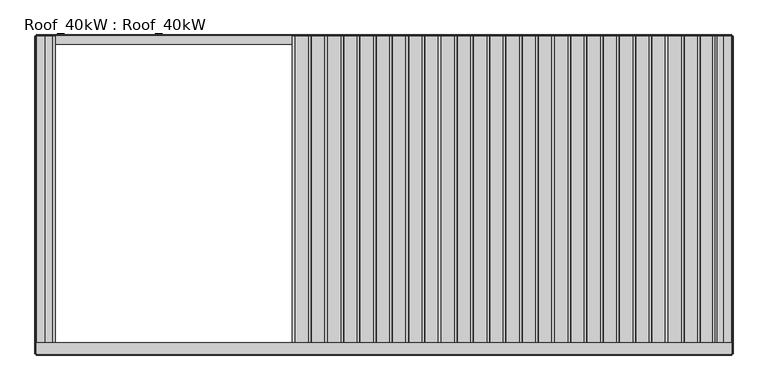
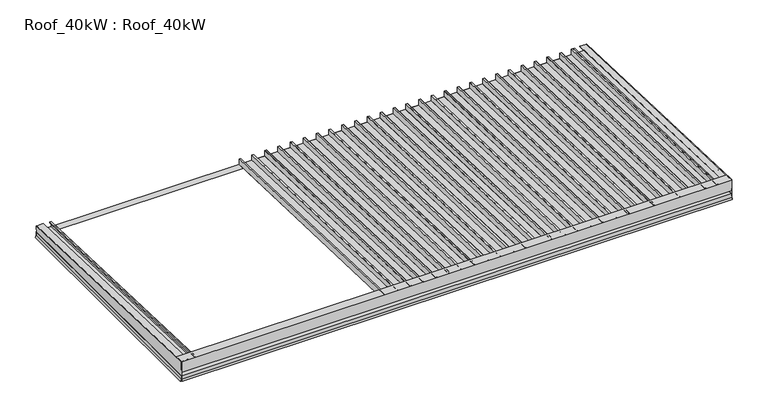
"""IFC4 building model written with IfcOpenShell, lengths in millimetres: beam geometry, Roof_40kW : Roof_40kW."""

from ifc_helpers import new_model, si_unit, frame, origin, place, context, project, spatial, polyline, outline, extrude, faceted_brep, source, transform, mapped, element, save


def roof_40kw_roof_40kw_a1198938(model_context):
    return source(origin(), model_context, "Body", "SolidModel", [
        extrude(outline(polyline([(3460.6079515, 3284.625316), (-23.1337581, 3282.8043375), (-14.9278607, 3517.7904945), (3464.5525967, 3397.5851728), (3460.6079515, 3284.625316)])), frame((3808.0, 0.0, 0.0), z_axis=(1.0, 0.0, 0.0), x_axis=(0.0, 1.0, 0.0)), (0.0, 0.0, 1.0), 2.0),
        faceted_brep([(-3604.7150264, -12.227048, 3512.7230441), (-3604.7150264, -12.227048, 3436.7693421), (-3806.0150264, -12.227048, 3436.7693421), (-3806.0150264, -12.227048, 3514.7218308), (-3785.0150182, -12.227048, 3514.7218308), (-3785.0150182, -12.227048, 3516.7206085), (-3808.0150315, -12.227048, 3516.7206085), (-3808.0150315, -12.227048, 3434.7705604), (-3602.7150264, -12.227048, 3434.7705604), (-3602.7150264, -12.227048, 3514.7218308), (-3627.315026, -12.227048, 3514.7218308), (-3627.315026, -12.227048, 3497.7321843), (-3625.3150255, -12.227048, 3497.7321843), (-3625.3150255, -12.227048, 3512.7230441), (-3604.7150264, 3464.453761, 3391.3146758), (-3625.3150255, 3464.453761, 3391.3146758), (-3625.3150255, 3464.453761, 3376.3238198), (-3627.315026, 3464.453761, 3376.3238198), (-3627.315026, 3464.453761, 3393.3134574), (-3602.7150212, 3464.453761, 3393.3134574), (-3602.7150212, 3464.453761, 3313.3621913), (-3808.0150264, 3464.453761, 3313.3621913), (-3808.0150264, 3464.453761, 3395.312244), (-3785.0150264, 3464.453761, 3395.312244), (-3785.0150264, 3464.453761, 3393.3134574), (-3806.0150264, 3464.453761, 3393.3134574), (-3806.0150264, 3464.453761, 3315.3609776), (-3604.7150264, 3464.453761, 3315.3609776)], [[[0, 1, 2, 3, 4, 5, 6, 7, 8, 9, 10, 11, 12, 13]], [[14, 15, 16, 17, 18, 19, 20, 21, 22, 23, 24, 25, 26, 27]], [[14, 27, 1, 0]], [[27, 26, 2, 1]], [[26, 25, 3, 2]], [[25, 24, 4, 3]], [[24, 23, 5, 4]], [[23, 22, 6, 5]], [[22, 21, 7, 6]], [[21, 20, 8, 7]], [[20, 19, 9, 8]], [[19, 18, 10, 9]], [[18, 17, 11, 10]], [[17, 16, 12, 11]], [[16, 15, 13, 12]], [[15, 14, 0, 13]]]),
        extrude(outline(polyline([(3464.5525967, 3397.5851728), (3464.5525967, 3395.3087926), (-14.9618868, 3516.8161158), (-14.9618868, 3517.79167), (3464.5525967, 3397.5851728)])), frame((-3805.3762999, 0.0, 0.0), z_axis=(1.0, 0.0, 0.0), x_axis=(0.0, 1.0, 0.0)), (0.0, 0.0, 1.0), 91.0),
        extrude(outline(polyline([(3464.5525967, 3395.4908878), (3464.5525967, 3393.2145076), (-14.9618868, 3514.7218308), (-14.9618868, 3515.697385), (3464.5525967, 3395.4908878)])), frame((3719.0, 0.0, 0.0), z_axis=(1.0, 0.0, 0.0), x_axis=(0.0, 1.0, 0.0)), (0.0, 0.0, 1.0), 91.0),
        extrude(outline(polyline([(3460.6079515, 3284.625316), (-23.1337581, 3282.8043375), (-14.9278607, 3517.7904945), (3464.5525967, 3397.5851728), (3460.6079515, 3284.625316)])), frame((-3810.0, 0.0, 0.0), z_axis=(1.0, 0.0, 0.0), x_axis=(0.0, 1.0, 0.0)), (0.0, 0.0, 1.0), 2.0),
        extrude(outline(polyline([(3236.0000001, -3821.5933739), (3260.999998, -3809.9333662), (3310.9999984, -3809.9333662), (3310.9999984, -3807.6946311), (3313.30614, -3807.6946311), (3313.30614, -3812.3053689), (3261.5259561, -3812.3053689), (3237.0026131, -3823.743061), (3236.0000001, -3821.5933739)])), frame((0.0, -12.227048, 0.0), z_axis=(0.0, 1.0, 0.0), x_axis=(0.0, 0.0, 1.0)), (0.0, 0.0, 1.0), 3476.680809),
        extrude(outline(polyline([(3236.0000001, 3821.5933739), (3237.0026131, 3823.743061), (3261.5259561, 3812.3053689), (3313.30614, 3812.3053689), (3313.30614, 3807.6946311), (3310.9999984, 3807.6946311), (3310.9999984, 3809.9333662), (3260.999998, 3809.9333662), (3236.0000001, 3821.5933739)])), frame((0.0, -12.227048, 0.0), z_axis=(0.0, 1.0, 0.0), x_axis=(0.0, 0.0, 1.0)), (0.0, 0.0, 1.0), 3476.680809),
        extrude(outline(polyline([(-25.8164138, 3236.0), (-27.9660786, 3237.0026014), (-16.5284138, 3261.525951), (-16.5284138, 3313.3621913), (74.2875985, 3313.3621913), (74.2875985, 3310.9999984), (-14.1564087, 3310.9999984), (-14.1564138, 3261.0), (-25.8164138, 3236.0)])), frame((-3810.0, 0.0, 0.0), z_axis=(1.0, 0.0, 0.0), x_axis=(0.0, 1.0, 0.0)), (0.0, 0.0, 1.0), 7620.0),
        extrude(outline(polyline([(3476.0008598, 3236.0), (3464.3408598, 3261.0), (3464.3408547, 3310.9999984), (3375.8968475, 3310.9999984), (3375.8968475, 3313.3621913), (3466.7128598, 3313.3621913), (3466.7128598, 3261.525951), (3478.1505246, 3237.0026014), (3476.0008598, 3236.0)])), frame((-3810.0, 0.0, 0.0), z_axis=(1.0, 0.0, 0.0), x_axis=(0.0, 1.0, 0.0)), (0.0, 0.0, 1.0), 7620.0),
        extrude(outline(polyline([(-19.7488615, 3366.1429929), (-19.7488615, 3519.2429929), (106.5741391, 3514.8316965), (106.5741391, 3513.5542884), (-18.3497143, 3517.9167255), (-18.3497143, 3366.1429929), (-19.7488615, 3366.1429929)])), frame((-3810.0, 0.0, 0.0), z_axis=(1.0, 0.0, 0.0), x_axis=(0.0, 1.0, 0.0)), (0.0, 0.0, 1.0), 7620.0),
        faceted_brep([(3803.9390172, -12.227048, 3512.7230441), (3803.9390172, -12.227048, 3436.7693421), (3602.6390173, -12.227048, 3436.7693421), (3602.6390173, -12.227048, 3514.7218308), (3623.6390254, -12.227048, 3514.7218308), (3623.6390254, -12.227048, 3516.7206085), (3600.6390122, -12.227048, 3516.7206085), (3600.6390122, -12.227048, 3434.7705604), (3805.9390172, -12.227048, 3434.7705604), (3805.9390172, -12.227048, 3514.7218308), (3781.3390176, -12.227048, 3514.7218308), (3781.3390176, -12.227048, 3497.7321843), (3783.3390182, -12.227048, 3497.7321843), (3783.3390182, -12.227048, 3512.7230441), (3803.9390172, 3464.453761, 3391.3146758), (3783.3390182, 3464.453761, 3391.3146758), (3783.3390182, 3464.453761, 3376.3238198), (3781.3390176, 3464.453761, 3376.3238198), (3781.3390176, 3464.453761, 3393.3134574), (3805.9390225, 3464.453761, 3393.3134574), (3805.9390225, 3464.453761, 3313.3621913), (3600.6390172, 3464.453761, 3313.3621913), (3600.6390172, 3464.453761, 3395.312244), (3623.6390172, 3464.453761, 3395.312244), (3623.6390172, 3464.453761, 3393.3134574), (3602.6390172, 3464.453761, 3393.3134574), (3602.6390172, 3464.453761, 3315.3609776), (3803.9390172, 3464.453761, 3315.3609776)], [[[0, 1, 2, 3, 4, 5, 6, 7, 8, 9, 10, 11, 12, 13]], [[14, 15, 16, 17, 18, 19, 20, 21, 22, 23, 24, 25, 26, 27]], [[14, 27, 1, 0]], [[27, 26, 2, 1]], [[26, 25, 3, 2]], [[25, 24, 4, 3]], [[24, 23, 5, 4]], [[23, 22, 6, 5]], [[22, 21, 7, 6]], [[21, 20, 8, 7]], [[20, 19, 9, 8]], [[19, 18, 10, 9]], [[18, 17, 11, 10]], [[17, 16, 12, 11]], [[16, 15, 13, 12]], [[15, 14, 0, 13]]]),
        faceted_brep([(3641.3222542, -12.227048, 3512.7230441), (3641.3222542, -12.227048, 3436.7693421), (3440.0222543, -12.227048, 3436.7693421), (3440.0222543, -12.227048, 3514.7218308), (3461.0222624, -12.227048, 3514.7218308), (3461.0222624, -12.227048, 3516.7206085), (3438.0222492, -12.227048, 3516.7206085), (3438.0222492, -12.227048, 3434.7705604), (3643.3222542, -12.227048, 3434.7705604), (3643.3222542, -12.227048, 3514.7218308), (3618.7222546, -12.227048, 3514.7218308), (3618.7222546, -12.227048, 3497.7321843), (3620.7222552, -12.227048, 3497.7321843), (3620.7222552, -12.227048, 3512.7230441), (3641.3222542, 3464.453761, 3391.3146758), (3620.7222552, 3464.453761, 3391.3146758), (3620.7222552, 3464.453761, 3376.3238198), (3618.7222546, 3464.453761, 3376.3238198), (3618.7222546, 3464.453761, 3393.3134574), (3643.3222595, 3464.453761, 3393.3134574), (3643.3222595, 3464.453761, 3313.3621913), (3438.0222542, 3464.453761, 3313.3621913), (3438.0222542, 3464.453761, 3395.312244), (3461.0222542, 3464.453761, 3395.312244), (3461.0222542, 3464.453761, 3393.3134574), (3440.0222542, 3464.453761, 3393.3134574), (3440.0222542, 3464.453761, 3315.3609776), (3641.3222542, 3464.453761, 3315.3609776)], [[[0, 1, 2, 3, 4, 5, 6, 7, 8, 9, 10, 11, 12, 13]], [[14, 15, 16, 17, 18, 19, 20, 21, 22, 23, 24, 25, 26, 27]], [[14, 27, 1, 0]], [[27, 26, 2, 1]], [[26, 25, 3, 2]], [[25, 24, 4, 3]], [[24, 23, 5, 4]], [[23, 22, 6, 5]], [[22, 21, 7, 6]], [[21, 20, 8, 7]], [[20, 19, 9, 8]], [[19, 18, 10, 9]], [[18, 17, 11, 10]], [[17, 16, 12, 11]], [[16, 15, 13, 12]], [[15, 14, 0, 13]]]),
        faceted_brep([(3463.7054912, -12.227048, 3512.7230441), (3463.7054912, -12.227048, 3436.7693421), (3262.4054913, -12.227048, 3436.7693421), (3262.4054913, -12.227048, 3514.7218308), (3283.4054994, -12.227048, 3514.7218308), (3283.4054994, -12.227048, 3516.7206085), (3260.4054862, -12.227048, 3516.7206085), (3260.4054862, -12.227048, 3434.7705604), (3465.7054912, -12.227048, 3434.7705604), (3465.7054912, -12.227048, 3514.7218308), (3441.1054916, -12.227048, 3514.7218308), (3441.1054916, -12.227048, 3497.7321843), (3443.1054922, -12.227048, 3497.7321843), (3443.1054922, -12.227048, 3512.7230441), (3463.7054912, 3464.453761, 3391.3146758), (3443.1054922, 3464.453761, 3391.3146758), (3443.1054922, 3464.453761, 3376.3238198), (3441.1054916, 3464.453761, 3376.3238198), (3441.1054916, 3464.453761, 3393.3134574), (3465.7054965, 3464.453761, 3393.3134574), (3465.7054965, 3464.453761, 3313.3621913), (3260.4054912, 3464.453761, 3313.3621913), (3260.4054912, 3464.453761, 3395.312244), (3283.4054912, 3464.453761, 3395.312244), (3283.4054912, 3464.453761, 3393.3134574), (3262.4054912, 3464.453761, 3393.3134574), (3262.4054912, 3464.453761, 3315.3609776), (3463.7054912, 3464.453761, 3315.3609776)], [[[0, 1, 2, 3, 4, 5, 6, 7, 8, 9, 10, 11, 12, 13]], [[14, 15, 16, 17, 18, 19, 20, 21, 22, 23, 24, 25, 26, 27]], [[14, 27, 1, 0]], [[27, 26, 2, 1]], [[26, 25, 3, 2]], [[25, 24, 4, 3]], [[24, 23, 5, 4]], [[23, 22, 6, 5]], [[22, 21, 7, 6]], [[21, 20, 8, 7]], [[20, 19, 9, 8]], [[19, 18, 10, 9]], [[18, 17, 11, 10]], [[17, 16, 12, 11]], [[16, 15, 13, 12]], [[15, 14, 0, 13]]]),
        faceted_brep([(3286.0887282, -12.227048, 3512.7230441), (3286.0887282, -12.227048, 3436.7693421), (3084.7887283, -12.227048, 3436.7693421), (3084.7887283, -12.227048, 3514.7218308), (3105.7887364, -12.227048, 3514.7218308), (3105.7887364, -12.227048, 3516.7206085), (3082.7887232, -12.227048, 3516.7206085), (3082.7887232, -12.227048, 3434.7705604), (3288.0887282, -12.227048, 3434.7705604), (3288.0887282, -12.227048, 3514.7218308), (3263.4887286, -12.227048, 3514.7218308), (3263.4887286, -12.227048, 3497.7321843), (3265.4887292, -12.227048, 3497.7321843), (3265.4887292, -12.227048, 3512.7230441), (3286.0887282, 3464.453761, 3391.3146758), (3265.4887292, 3464.453761, 3391.3146758), (3265.4887292, 3464.453761, 3376.3238198), (3263.4887286, 3464.453761, 3376.3238198), (3263.4887286, 3464.453761, 3393.3134574), (3288.0887335, 3464.453761, 3393.3134574), (3288.0887335, 3464.453761, 3313.3621913), (3082.7887282, 3464.453761, 3313.3621913), (3082.7887282, 3464.453761, 3395.312244), (3105.7887282, 3464.453761, 3395.312244), (3105.7887282, 3464.453761, 3393.3134574), (3084.7887282, 3464.453761, 3393.3134574), (3084.7887282, 3464.453761, 3315.3609776), (3286.0887282, 3464.453761, 3315.3609776)], [[[0, 1, 2, 3, 4, 5, 6, 7, 8, 9, 10, 11, 12, 13]], [[14, 15, 16, 17, 18, 19, 20, 21, 22, 23, 24, 25, 26, 27]], [[14, 27, 1, 0]], [[27, 26, 2, 1]], [[26, 25, 3, 2]], [[25, 24, 4, 3]], [[24, 23, 5, 4]], [[23, 22, 6, 5]], [[22, 21, 7, 6]], [[21, 20, 8, 7]], [[20, 19, 9, 8]], [[19, 18, 10, 9]], [[18, 17, 11, 10]], [[17, 16, 12, 11]], [[16, 15, 13, 12]], [[15, 14, 0, 13]]]),
        faceted_brep([(3108.4719652, -12.227048, 3512.7230441), (3108.4719652, -12.227048, 3436.7693421), (2907.1719653, -12.227048, 3436.7693421), (2907.1719653, -12.227048, 3514.7218308), (2928.1719734, -12.227048, 3514.7218308), (2928.1719734, -12.227048, 3516.7206085), (2905.1719602, -12.227048, 3516.7206085), (2905.1719602, -12.227048, 3434.7705604), (3110.4719652, -12.227048, 3434.7705604), (3110.4719652, -12.227048, 3514.7218308), (3085.8719656, -12.227048, 3514.7218308), (3085.8719656, -12.227048, 3497.7321843), (3087.8719661, -12.227048, 3497.7321843), (3087.8719661, -12.227048, 3512.7230441), (3108.4719652, 3464.453761, 3391.3146758), (3087.8719661, 3464.453761, 3391.3146758), (3087.8719661, 3464.453761, 3376.3238198), (3085.8719656, 3464.453761, 3376.3238198), (3085.8719656, 3464.453761, 3393.3134574), (3110.4719705, 3464.453761, 3393.3134574), (3110.4719705, 3464.453761, 3313.3621913), (2905.1719652, 3464.453761, 3313.3621913), (2905.1719652, 3464.453761, 3395.312244), (2928.1719652, 3464.453761, 3395.312244), (2928.1719652, 3464.453761, 3393.3134574), (2907.1719652, 3464.453761, 3393.3134574), (2907.1719652, 3464.453761, 3315.3609776), (3108.4719652, 3464.453761, 3315.3609776)], [[[0, 1, 2, 3, 4, 5, 6, 7, 8, 9, 10, 11, 12, 13]], [[14, 15, 16, 17, 18, 19, 20, 21, 22, 23, 24, 25, 26, 27]], [[14, 27, 1, 0]], [[27, 26, 2, 1]], [[26, 25, 3, 2]], [[25, 24, 4, 3]], [[24, 23, 5, 4]], [[23, 22, 6, 5]], [[22, 21, 7, 6]], [[21, 20, 8, 7]], [[20, 19, 9, 8]], [[19, 18, 10, 9]], [[18, 17, 11, 10]], [[17, 16, 12, 11]], [[16, 15, 13, 12]], [[15, 14, 0, 13]]]),
        faceted_brep([(2930.8552022, -12.227048, 3512.7230441), (2930.8552022, -12.227048, 3436.7693421), (2729.5552023, -12.227048, 3436.7693421), (2729.5552023, -12.227048, 3514.7218308), (2750.5552104, -12.227048, 3514.7218308), (2750.5552104, -12.227048, 3516.7206085), (2727.5551972, -12.227048, 3516.7206085), (2727.5551972, -12.227048, 3434.7705604), (2932.8552022, -12.227048, 3434.7705604), (2932.8552022, -12.227048, 3514.7218308), (2908.2552026, -12.227048, 3514.7218308), (2908.2552026, -12.227048, 3497.7321843), (2910.2552031, -12.227048, 3497.7321843), (2910.2552031, -12.227048, 3512.7230441), (2930.8552022, 3464.453761, 3391.3146758), (2910.2552031, 3464.453761, 3391.3146758), (2910.2552031, 3464.453761, 3376.3238198), (2908.2552026, 3464.453761, 3376.3238198), (2908.2552026, 3464.453761, 3393.3134574), (2932.8552075, 3464.453761, 3393.3134574), (2932.8552075, 3464.453761, 3313.3621913), (2727.5552022, 3464.453761, 3313.3621913), (2727.5552022, 3464.453761, 3395.312244), (2750.5552022, 3464.453761, 3395.312244), (2750.5552022, 3464.453761, 3393.3134574), (2729.5552022, 3464.453761, 3393.3134574), (2729.5552022, 3464.453761, 3315.3609776), (2930.8552022, 3464.453761, 3315.3609776)], [[[0, 1, 2, 3, 4, 5, 6, 7, 8, 9, 10, 11, 12, 13]], [[14, 15, 16, 17, 18, 19, 20, 21, 22, 23, 24, 25, 26, 27]], [[14, 27, 1, 0]], [[27, 26, 2, 1]], [[26, 25, 3, 2]], [[25, 24, 4, 3]], [[24, 23, 5, 4]], [[23, 22, 6, 5]], [[22, 21, 7, 6]], [[21, 20, 8, 7]], [[20, 19, 9, 8]], [[19, 18, 10, 9]], [[18, 17, 11, 10]], [[17, 16, 12, 11]], [[16, 15, 13, 12]], [[15, 14, 0, 13]]]),
        faceted_brep([(2753.2384392, -12.227048, 3512.7230441), (2753.2384392, -12.227048, 3436.7693421), (2551.9384393, -12.227048, 3436.7693421), (2551.9384393, -12.227048, 3514.7218308), (2572.9384474, -12.227048, 3514.7218308), (2572.9384474, -12.227048, 3516.7206085), (2549.9384341, -12.227048, 3516.7206085), (2549.9384341, -12.227048, 3434.7705604), (2755.2384392, -12.227048, 3434.7705604), (2755.2384392, -12.227048, 3514.7218308), (2730.6384396, -12.227048, 3514.7218308), (2730.6384396, -12.227048, 3497.7321843), (2732.6384401, -12.227048, 3497.7321843), (2732.6384401, -12.227048, 3512.7230441), (2753.2384392, 3464.453761, 3391.3146758), (2732.6384401, 3464.453761, 3391.3146758), (2732.6384401, 3464.453761, 3376.3238198), (2730.6384396, 3464.453761, 3376.3238198), (2730.6384396, 3464.453761, 3393.3134574), (2755.2384444, 3464.453761, 3393.3134574), (2755.2384444, 3464.453761, 3313.3621913), (2549.9384392, 3464.453761, 3313.3621913), (2549.9384392, 3464.453761, 3395.312244), (2572.9384392, 3464.453761, 3395.312244), (2572.9384392, 3464.453761, 3393.3134574), (2551.9384392, 3464.453761, 3393.3134574), (2551.9384392, 3464.453761, 3315.3609776), (2753.2384392, 3464.453761, 3315.3609776)], [[[0, 1, 2, 3, 4, 5, 6, 7, 8, 9, 10, 11, 12, 13]], [[14, 15, 16, 17, 18, 19, 20, 21, 22, 23, 24, 25, 26, 27]], [[14, 27, 1, 0]], [[27, 26, 2, 1]], [[26, 25, 3, 2]], [[25, 24, 4, 3]], [[24, 23, 5, 4]], [[23, 22, 6, 5]], [[22, 21, 7, 6]], [[21, 20, 8, 7]], [[20, 19, 9, 8]], [[19, 18, 10, 9]], [[18, 17, 11, 10]], [[17, 16, 12, 11]], [[16, 15, 13, 12]], [[15, 14, 0, 13]]]),
        faceted_brep([(2575.6216762, -12.227048, 3512.7230441), (2575.6216762, -12.227048, 3436.7693421), (2374.3216762, -12.227048, 3436.7693421), (2374.3216762, -12.227048, 3514.7218308), (2395.3216844, -12.227048, 3514.7218308), (2395.3216844, -12.227048, 3516.7206085), (2372.3216711, -12.227048, 3516.7206085), (2372.3216711, -12.227048, 3434.7705604), (2577.6216762, -12.227048, 3434.7705604), (2577.6216762, -12.227048, 3514.7218308), (2553.0216766, -12.227048, 3514.7218308), (2553.0216766, -12.227048, 3497.7321843), (2555.0216771, -12.227048, 3497.7321843), (2555.0216771, -12.227048, 3512.7230441), (2575.6216762, 3464.453761, 3391.3146758), (2555.0216771, 3464.453761, 3391.3146758), (2555.0216771, 3464.453761, 3376.3238198), (2553.0216766, 3464.453761, 3376.3238198), (2553.0216766, 3464.453761, 3393.3134574), (2577.6216814, 3464.453761, 3393.3134574), (2577.6216814, 3464.453761, 3313.3621913), (2372.3216762, 3464.453761, 3313.3621913), (2372.3216762, 3464.453761, 3395.312244), (2395.3216762, 3464.453761, 3395.312244), (2395.3216762, 3464.453761, 3393.3134574), (2374.3216762, 3464.453761, 3393.3134574), (2374.3216762, 3464.453761, 3315.3609776), (2575.6216762, 3464.453761, 3315.3609776)], [[[0, 1, 2, 3, 4, 5, 6, 7, 8, 9, 10, 11, 12, 13]], [[14, 15, 16, 17, 18, 19, 20, 21, 22, 23, 24, 25, 26, 27]], [[14, 27, 1, 0]], [[27, 26, 2, 1]], [[26, 25, 3, 2]], [[25, 24, 4, 3]], [[24, 23, 5, 4]], [[23, 22, 6, 5]], [[22, 21, 7, 6]], [[21, 20, 8, 7]], [[20, 19, 9, 8]], [[19, 18, 10, 9]], [[18, 17, 11, 10]], [[17, 16, 12, 11]], [[16, 15, 13, 12]], [[15, 14, 0, 13]]]),
        faceted_brep([(2398.0049132, -12.227048, 3512.7230441), (2398.0049132, -12.227048, 3436.7693421), (2196.7049132, -12.227048, 3436.7693421), (2196.7049132, -12.227048, 3514.7218308), (2217.7049214, -12.227048, 3514.7218308), (2217.7049214, -12.227048, 3516.7206085), (2194.7049081, -12.227048, 3516.7206085), (2194.7049081, -12.227048, 3434.7705604), (2400.0049132, -12.227048, 3434.7705604), (2400.0049132, -12.227048, 3514.7218308), (2375.4049136, -12.227048, 3514.7218308), (2375.4049136, -12.227048, 3497.7321843), (2377.4049141, -12.227048, 3497.7321843), (2377.4049141, -12.227048, 3512.7230441), (2398.0049132, 3464.453761, 3391.3146758), (2377.4049141, 3464.453761, 3391.3146758), (2377.4049141, 3464.453761, 3376.3238198), (2375.4049136, 3464.453761, 3376.3238198), (2375.4049136, 3464.453761, 3393.3134574), (2400.0049184, 3464.453761, 3393.3134574), (2400.0049184, 3464.453761, 3313.3621913), (2194.7049132, 3464.453761, 3313.3621913), (2194.7049132, 3464.453761, 3395.312244), (2217.7049132, 3464.453761, 3395.312244), (2217.7049132, 3464.453761, 3393.3134574), (2196.7049132, 3464.453761, 3393.3134574), (2196.7049132, 3464.453761, 3315.3609776), (2398.0049132, 3464.453761, 3315.3609776)], [[[0, 1, 2, 3, 4, 5, 6, 7, 8, 9, 10, 11, 12, 13]], [[14, 15, 16, 17, 18, 19, 20, 21, 22, 23, 24, 25, 26, 27]], [[14, 27, 1, 0]], [[27, 26, 2, 1]], [[26, 25, 3, 2]], [[25, 24, 4, 3]], [[24, 23, 5, 4]], [[23, 22, 6, 5]], [[22, 21, 7, 6]], [[21, 20, 8, 7]], [[20, 19, 9, 8]], [[19, 18, 10, 9]], [[18, 17, 11, 10]], [[17, 16, 12, 11]], [[16, 15, 13, 12]], [[15, 14, 0, 13]]]),
        faceted_brep([(2220.3881502, -12.227048, 3512.7230441), (2220.3881502, -12.227048, 3436.7693421), (2019.0881502, -12.227048, 3436.7693421), (2019.0881502, -12.227048, 3514.7218308), (2040.0881584, -12.227048, 3514.7218308), (2040.0881584, -12.227048, 3516.7206085), (2017.0881451, -12.227048, 3516.7206085), (2017.0881451, -12.227048, 3434.7705604), (2222.3881502, -12.227048, 3434.7705604), (2222.3881502, -12.227048, 3514.7218308), (2197.7881506, -12.227048, 3514.7218308), (2197.7881506, -12.227048, 3497.7321843), (2199.7881511, -12.227048, 3497.7321843), (2199.7881511, -12.227048, 3512.7230441), (2220.3881502, 3464.453761, 3391.3146758), (2199.7881511, 3464.453761, 3391.3146758), (2199.7881511, 3464.453761, 3376.3238198), (2197.7881506, 3464.453761, 3376.3238198), (2197.7881506, 3464.453761, 3393.3134574), (2222.3881554, 3464.453761, 3393.3134574), (2222.3881554, 3464.453761, 3313.3621913), (2017.0881502, 3464.453761, 3313.3621913), (2017.0881502, 3464.453761, 3395.312244), (2040.0881502, 3464.453761, 3395.312244), (2040.0881502, 3464.453761, 3393.3134574), (2019.0881502, 3464.453761, 3393.3134574), (2019.0881502, 3464.453761, 3315.3609776), (2220.3881502, 3464.453761, 3315.3609776)], [[[0, 1, 2, 3, 4, 5, 6, 7, 8, 9, 10, 11, 12, 13]], [[14, 15, 16, 17, 18, 19, 20, 21, 22, 23, 24, 25, 26, 27]], [[14, 27, 1, 0]], [[27, 26, 2, 1]], [[26, 25, 3, 2]], [[25, 24, 4, 3]], [[24, 23, 5, 4]], [[23, 22, 6, 5]], [[22, 21, 7, 6]], [[21, 20, 8, 7]], [[20, 19, 9, 8]], [[19, 18, 10, 9]], [[18, 17, 11, 10]], [[17, 16, 12, 11]], [[16, 15, 13, 12]], [[15, 14, 0, 13]]]),
        faceted_brep([(2042.7713872, -12.227048, 3512.7230441), (2042.7713872, -12.227048, 3436.7693421), (1841.4713872, -12.227048, 3436.7693421), (1841.4713872, -12.227048, 3514.7218308), (1862.4713954, -12.227048, 3514.7218308), (1862.4713954, -12.227048, 3516.7206085), (1839.4713821, -12.227048, 3516.7206085), (1839.4713821, -12.227048, 3434.7705604), (2044.7713872, -12.227048, 3434.7705604), (2044.7713872, -12.227048, 3514.7218308), (2020.1713876, -12.227048, 3514.7218308), (2020.1713876, -12.227048, 3497.7321843), (2022.1713881, -12.227048, 3497.7321843), (2022.1713881, -12.227048, 3512.7230441), (2042.7713872, 3464.453761, 3391.3146758), (2022.1713881, 3464.453761, 3391.3146758), (2022.1713881, 3464.453761, 3376.3238198), (2020.1713876, 3464.453761, 3376.3238198), (2020.1713876, 3464.453761, 3393.3134574), (2044.7713924, 3464.453761, 3393.3134574), (2044.7713924, 3464.453761, 3313.3621913), (1839.4713872, 3464.453761, 3313.3621913), (1839.4713872, 3464.453761, 3395.312244), (1862.4713872, 3464.453761, 3395.312244), (1862.4713872, 3464.453761, 3393.3134574), (1841.4713872, 3464.453761, 3393.3134574), (1841.4713872, 3464.453761, 3315.3609776), (2042.7713872, 3464.453761, 3315.3609776)], [[[0, 1, 2, 3, 4, 5, 6, 7, 8, 9, 10, 11, 12, 13]], [[14, 15, 16, 17, 18, 19, 20, 21, 22, 23, 24, 25, 26, 27]], [[14, 27, 1, 0]], [[27, 26, 2, 1]], [[26, 25, 3, 2]], [[25, 24, 4, 3]], [[24, 23, 5, 4]], [[23, 22, 6, 5]], [[22, 21, 7, 6]], [[21, 20, 8, 7]], [[20, 19, 9, 8]], [[19, 18, 10, 9]], [[18, 17, 11, 10]], [[17, 16, 12, 11]], [[16, 15, 13, 12]], [[15, 14, 0, 13]]]),
        faceted_brep([(1865.1546242, -12.227048, 3512.7230441), (1865.1546242, -12.227048, 3436.7693421), (1663.8546242, -12.227048, 3436.7693421), (1663.8546242, -12.227048, 3514.7218308), (1684.8546324, -12.227048, 3514.7218308), (1684.8546324, -12.227048, 3516.7206085), (1661.8546191, -12.227048, 3516.7206085), (1661.8546191, -12.227048, 3434.7705604), (1867.1546242, -12.227048, 3434.7705604), (1867.1546242, -12.227048, 3514.7218308), (1842.5546246, -12.227048, 3514.7218308), (1842.5546246, -12.227048, 3497.7321843), (1844.5546251, -12.227048, 3497.7321843), (1844.5546251, -12.227048, 3512.7230441), (1865.1546242, 3464.453761, 3391.3146758), (1844.5546251, 3464.453761, 3391.3146758), (1844.5546251, 3464.453761, 3376.3238198), (1842.5546246, 3464.453761, 3376.3238198), (1842.5546246, 3464.453761, 3393.3134574), (1867.1546294, 3464.453761, 3393.3134574), (1867.1546294, 3464.453761, 3313.3621913), (1661.8546242, 3464.453761, 3313.3621913), (1661.8546242, 3464.453761, 3395.312244), (1684.8546242, 3464.453761, 3395.312244), (1684.8546242, 3464.453761, 3393.3134574), (1663.8546242, 3464.453761, 3393.3134574), (1663.8546242, 3464.453761, 3315.3609776), (1865.1546242, 3464.453761, 3315.3609776)], [[[0, 1, 2, 3, 4, 5, 6, 7, 8, 9, 10, 11, 12, 13]], [[14, 15, 16, 17, 18, 19, 20, 21, 22, 23, 24, 25, 26, 27]], [[14, 27, 1, 0]], [[27, 26, 2, 1]], [[26, 25, 3, 2]], [[25, 24, 4, 3]], [[24, 23, 5, 4]], [[23, 22, 6, 5]], [[22, 21, 7, 6]], [[21, 20, 8, 7]], [[20, 19, 9, 8]], [[19, 18, 10, 9]], [[18, 17, 11, 10]], [[17, 16, 12, 11]], [[16, 15, 13, 12]], [[15, 14, 0, 13]]]),
        faceted_brep([(1687.5378612, -12.227048, 3512.7230441), (1687.5378612, -12.227048, 3436.7693421), (1486.2378612, -12.227048, 3436.7693421), (1486.2378612, -12.227048, 3514.7218308), (1507.2378694, -12.227048, 3514.7218308), (1507.2378694, -12.227048, 3516.7206085), (1484.2378561, -12.227048, 3516.7206085), (1484.2378561, -12.227048, 3434.7705604), (1689.5378612, -12.227048, 3434.7705604), (1689.5378612, -12.227048, 3514.7218308), (1664.9378616, -12.227048, 3514.7218308), (1664.9378616, -12.227048, 3497.7321843), (1666.9378621, -12.227048, 3497.7321843), (1666.9378621, -12.227048, 3512.7230441), (1687.5378612, 3464.453761, 3391.3146758), (1666.9378621, 3464.453761, 3391.3146758), (1666.9378621, 3464.453761, 3376.3238198), (1664.9378616, 3464.453761, 3376.3238198), (1664.9378616, 3464.453761, 3393.3134574), (1689.5378664, 3464.453761, 3393.3134574), (1689.5378664, 3464.453761, 3313.3621913), (1484.2378612, 3464.453761, 3313.3621913), (1484.2378612, 3464.453761, 3395.312244), (1507.2378612, 3464.453761, 3395.312244), (1507.2378612, 3464.453761, 3393.3134574), (1486.2378612, 3464.453761, 3393.3134574), (1486.2378612, 3464.453761, 3315.3609776), (1687.5378612, 3464.453761, 3315.3609776)], [[[0, 1, 2, 3, 4, 5, 6, 7, 8, 9, 10, 11, 12, 13]], [[14, 15, 16, 17, 18, 19, 20, 21, 22, 23, 24, 25, 26, 27]], [[14, 27, 1, 0]], [[27, 26, 2, 1]], [[26, 25, 3, 2]], [[25, 24, 4, 3]], [[24, 23, 5, 4]], [[23, 22, 6, 5]], [[22, 21, 7, 6]], [[21, 20, 8, 7]], [[20, 19, 9, 8]], [[19, 18, 10, 9]], [[18, 17, 11, 10]], [[17, 16, 12, 11]], [[16, 15, 13, 12]], [[15, 14, 0, 13]]]),
        faceted_brep([(1509.9210982, -12.227048, 3512.7230441), (1509.9210982, -12.227048, 3436.7693421), (1308.6210982, -12.227048, 3436.7693421), (1308.6210982, -12.227048, 3514.7218308), (1329.6211064, -12.227048, 3514.7218308), (1329.6211064, -12.227048, 3516.7206085), (1306.6210931, -12.227048, 3516.7206085), (1306.6210931, -12.227048, 3434.7705604), (1511.9210982, -12.227048, 3434.7705604), (1511.9210982, -12.227048, 3514.7218308), (1487.3210986, -12.227048, 3514.7218308), (1487.3210986, -12.227048, 3497.7321843), (1489.3210991, -12.227048, 3497.7321843), (1489.3210991, -12.227048, 3512.7230441), (1509.9210982, 3464.453761, 3391.3146758), (1489.3210991, 3464.453761, 3391.3146758), (1489.3210991, 3464.453761, 3376.3238198), (1487.3210986, 3464.453761, 3376.3238198), (1487.3210986, 3464.453761, 3393.3134574), (1511.9211034, 3464.453761, 3393.3134574), (1511.9211034, 3464.453761, 3313.3621913), (1306.6210982, 3464.453761, 3313.3621913), (1306.6210982, 3464.453761, 3395.312244), (1329.6210982, 3464.453761, 3395.312244), (1329.6210982, 3464.453761, 3393.3134574), (1308.6210982, 3464.453761, 3393.3134574), (1308.6210982, 3464.453761, 3315.3609776), (1509.9210982, 3464.453761, 3315.3609776)], [[[0, 1, 2, 3, 4, 5, 6, 7, 8, 9, 10, 11, 12, 13]], [[14, 15, 16, 17, 18, 19, 20, 21, 22, 23, 24, 25, 26, 27]], [[14, 27, 1, 0]], [[27, 26, 2, 1]], [[26, 25, 3, 2]], [[25, 24, 4, 3]], [[24, 23, 5, 4]], [[23, 22, 6, 5]], [[22, 21, 7, 6]], [[21, 20, 8, 7]], [[20, 19, 9, 8]], [[19, 18, 10, 9]], [[18, 17, 11, 10]], [[17, 16, 12, 11]], [[16, 15, 13, 12]], [[15, 14, 0, 13]]]),
        faceted_brep([(1332.3043352, -12.227048, 3512.7230441), (1332.3043352, -12.227048, 3436.7693421), (1131.0043352, -12.227048, 3436.7693421), (1131.0043352, -12.227048, 3514.7218308), (1152.0043434, -12.227048, 3514.7218308), (1152.0043434, -12.227048, 3516.7206085), (1129.0043301, -12.227048, 3516.7206085), (1129.0043301, -12.227048, 3434.7705604), (1334.3043352, -12.227048, 3434.7705604), (1334.3043352, -12.227048, 3514.7218308), (1309.7043355, -12.227048, 3514.7218308), (1309.7043355, -12.227048, 3497.7321843), (1311.7043361, -12.227048, 3497.7321843), (1311.7043361, -12.227048, 3512.7230441), (1332.3043352, 3464.453761, 3391.3146758), (1311.7043361, 3464.453761, 3391.3146758), (1311.7043361, 3464.453761, 3376.3238198), (1309.7043355, 3464.453761, 3376.3238198), (1309.7043355, 3464.453761, 3393.3134574), (1334.3043404, 3464.453761, 3393.3134574), (1334.3043404, 3464.453761, 3313.3621913), (1129.0043352, 3464.453761, 3313.3621913), (1129.0043352, 3464.453761, 3395.312244), (1152.0043352, 3464.453761, 3395.312244), (1152.0043352, 3464.453761, 3393.3134574), (1131.0043352, 3464.453761, 3393.3134574), (1131.0043352, 3464.453761, 3315.3609776), (1332.3043352, 3464.453761, 3315.3609776)], [[[0, 1, 2, 3, 4, 5, 6, 7, 8, 9, 10, 11, 12, 13]], [[14, 15, 16, 17, 18, 19, 20, 21, 22, 23, 24, 25, 26, 27]], [[14, 27, 1, 0]], [[27, 26, 2, 1]], [[26, 25, 3, 2]], [[25, 24, 4, 3]], [[24, 23, 5, 4]], [[23, 22, 6, 5]], [[22, 21, 7, 6]], [[21, 20, 8, 7]], [[20, 19, 9, 8]], [[19, 18, 10, 9]], [[18, 17, 11, 10]], [[17, 16, 12, 11]], [[16, 15, 13, 12]], [[15, 14, 0, 13]]]),
        faceted_brep([(1154.6875722, -12.227048, 3512.7230441), (1154.6875722, -12.227048, 3436.7693421), (953.3875722, -12.227048, 3436.7693421), (953.3875722, -12.227048, 3514.7218308), (974.3875804, -12.227048, 3514.7218308), (974.3875804, -12.227048, 3516.7206085), (951.3875671, -12.227048, 3516.7206085), (951.3875671, -12.227048, 3434.7705604), (1156.6875722, -12.227048, 3434.7705604), (1156.6875722, -12.227048, 3514.7218308), (1132.0875725, -12.227048, 3514.7218308), (1132.0875725, -12.227048, 3497.7321843), (1134.0875731, -12.227048, 3497.7321843), (1134.0875731, -12.227048, 3512.7230441), (1154.6875722, 3464.453761, 3391.3146758), (1134.0875731, 3464.453761, 3391.3146758), (1134.0875731, 3464.453761, 3376.3238198), (1132.0875725, 3464.453761, 3376.3238198), (1132.0875725, 3464.453761, 3393.3134574), (1156.6875774, 3464.453761, 3393.3134574), (1156.6875774, 3464.453761, 3313.3621913), (951.3875722, 3464.453761, 3313.3621913), (951.3875722, 3464.453761, 3395.312244), (974.3875722, 3464.453761, 3395.312244), (974.3875722, 3464.453761, 3393.3134574), (953.3875722, 3464.453761, 3393.3134574), (953.3875722, 3464.453761, 3315.3609776), (1154.6875722, 3464.453761, 3315.3609776)], [[[0, 1, 2, 3, 4, 5, 6, 7, 8, 9, 10, 11, 12, 13]], [[14, 15, 16, 17, 18, 19, 20, 21, 22, 23, 24, 25, 26, 27]], [[14, 27, 1, 0]], [[27, 26, 2, 1]], [[26, 25, 3, 2]], [[25, 24, 4, 3]], [[24, 23, 5, 4]], [[23, 22, 6, 5]], [[22, 21, 7, 6]], [[21, 20, 8, 7]], [[20, 19, 9, 8]], [[19, 18, 10, 9]], [[18, 17, 11, 10]], [[17, 16, 12, 11]], [[16, 15, 13, 12]], [[15, 14, 0, 13]]]),
        faceted_brep([(977.0708092, -12.227048, 3512.7230441), (977.0708092, -12.227048, 3436.7693421), (775.7708092, -12.227048, 3436.7693421), (775.7708092, -12.227048, 3514.7218308), (796.7708174, -12.227048, 3514.7218308), (796.7708174, -12.227048, 3516.7206085), (773.7708041, -12.227048, 3516.7206085), (773.7708041, -12.227048, 3434.7705604), (979.0708092, -12.227048, 3434.7705604), (979.0708092, -12.227048, 3514.7218308), (954.4708095, -12.227048, 3514.7218308), (954.4708095, -12.227048, 3497.7321843), (956.4708101, -12.227048, 3497.7321843), (956.4708101, -12.227048, 3512.7230441), (977.0708092, 3464.453761, 3391.3146758), (956.4708101, 3464.453761, 3391.3146758), (956.4708101, 3464.453761, 3376.3238198), (954.4708095, 3464.453761, 3376.3238198), (954.4708095, 3464.453761, 3393.3134574), (979.0708144, 3464.453761, 3393.3134574), (979.0708144, 3464.453761, 3313.3621913), (773.7708092, 3464.453761, 3313.3621913), (773.7708092, 3464.453761, 3395.312244), (796.7708092, 3464.453761, 3395.312244), (796.7708092, 3464.453761, 3393.3134574), (775.7708092, 3464.453761, 3393.3134574), (775.7708092, 3464.453761, 3315.3609776), (977.0708092, 3464.453761, 3315.3609776)], [[[0, 1, 2, 3, 4, 5, 6, 7, 8, 9, 10, 11, 12, 13]], [[14, 15, 16, 17, 18, 19, 20, 21, 22, 23, 24, 25, 26, 27]], [[14, 27, 1, 0]], [[27, 26, 2, 1]], [[26, 25, 3, 2]], [[25, 24, 4, 3]], [[24, 23, 5, 4]], [[23, 22, 6, 5]], [[22, 21, 7, 6]], [[21, 20, 8, 7]], [[20, 19, 9, 8]], [[19, 18, 10, 9]], [[18, 17, 11, 10]], [[17, 16, 12, 11]], [[16, 15, 13, 12]], [[15, 14, 0, 13]]]),
        faceted_brep([(799.4540462, -12.227048, 3512.7230441), (799.4540462, -12.227048, 3436.7693421), (598.1540462, -12.227048, 3436.7693421), (598.1540462, -12.227048, 3514.7218308), (619.1540544, -12.227048, 3514.7218308), (619.1540544, -12.227048, 3516.7206085), (596.1540411, -12.227048, 3516.7206085), (596.1540411, -12.227048, 3434.7705604), (801.4540462, -12.227048, 3434.7705604), (801.4540462, -12.227048, 3514.7218308), (776.8540465, -12.227048, 3514.7218308), (776.8540465, -12.227048, 3497.7321843), (778.8540471, -12.227048, 3497.7321843), (778.8540471, -12.227048, 3512.7230441), (799.4540462, 3464.453761, 3391.3146758), (778.8540471, 3464.453761, 3391.3146758), (778.8540471, 3464.453761, 3376.3238198), (776.8540465, 3464.453761, 3376.3238198), (776.8540465, 3464.453761, 3393.3134574), (801.4540514, 3464.453761, 3393.3134574), (801.4540514, 3464.453761, 3313.3621913), (596.1540462, 3464.453761, 3313.3621913), (596.1540462, 3464.453761, 3395.312244), (619.1540462, 3464.453761, 3395.312244), (619.1540462, 3464.453761, 3393.3134574), (598.1540462, 3464.453761, 3393.3134574), (598.1540462, 3464.453761, 3315.3609776), (799.4540462, 3464.453761, 3315.3609776)], [[[0, 1, 2, 3, 4, 5, 6, 7, 8, 9, 10, 11, 12, 13]], [[14, 15, 16, 17, 18, 19, 20, 21, 22, 23, 24, 25, 26, 27]], [[14, 27, 1, 0]], [[27, 26, 2, 1]], [[26, 25, 3, 2]], [[25, 24, 4, 3]], [[24, 23, 5, 4]], [[23, 22, 6, 5]], [[22, 21, 7, 6]], [[21, 20, 8, 7]], [[20, 19, 9, 8]], [[19, 18, 10, 9]], [[18, 17, 11, 10]], [[17, 16, 12, 11]], [[16, 15, 13, 12]], [[15, 14, 0, 13]]]),
        faceted_brep([(621.8372832, -12.227048, 3512.7230441), (621.8372832, -12.227048, 3436.7693421), (420.5372832, -12.227048, 3436.7693421), (420.5372832, -12.227048, 3514.7218308), (441.5372914, -12.227048, 3514.7218308), (441.5372914, -12.227048, 3516.7206085), (418.5372781, -12.227048, 3516.7206085), (418.5372781, -12.227048, 3434.7705604), (623.8372832, -12.227048, 3434.7705604), (623.8372832, -12.227048, 3514.7218308), (599.2372835, -12.227048, 3514.7218308), (599.2372835, -12.227048, 3497.7321843), (601.2372841, -12.227048, 3497.7321843), (601.2372841, -12.227048, 3512.7230441), (621.8372832, 3464.453761, 3391.3146758), (601.2372841, 3464.453761, 3391.3146758), (601.2372841, 3464.453761, 3376.3238198), (599.2372835, 3464.453761, 3376.3238198), (599.2372835, 3464.453761, 3393.3134574), (623.8372884, 3464.453761, 3393.3134574), (623.8372884, 3464.453761, 3313.3621913), (418.5372832, 3464.453761, 3313.3621913), (418.5372832, 3464.453761, 3395.312244), (441.5372832, 3464.453761, 3395.312244), (441.5372832, 3464.453761, 3393.3134574), (420.5372832, 3464.453761, 3393.3134574), (420.5372832, 3464.453761, 3315.3609776), (621.8372832, 3464.453761, 3315.3609776)], [[[0, 1, 2, 3, 4, 5, 6, 7, 8, 9, 10, 11, 12, 13]], [[14, 15, 16, 17, 18, 19, 20, 21, 22, 23, 24, 25, 26, 27]], [[14, 27, 1, 0]], [[27, 26, 2, 1]], [[26, 25, 3, 2]], [[25, 24, 4, 3]], [[24, 23, 5, 4]], [[23, 22, 6, 5]], [[22, 21, 7, 6]], [[21, 20, 8, 7]], [[20, 19, 9, 8]], [[19, 18, 10, 9]], [[18, 17, 11, 10]], [[17, 16, 12, 11]], [[16, 15, 13, 12]], [[15, 14, 0, 13]]]),
        faceted_brep([(444.2205202, -12.227048, 3512.7230441), (444.2205202, -12.227048, 3436.7693421), (242.9205202, -12.227048, 3436.7693421), (242.9205202, -12.227048, 3514.7218308), (263.9205284, -12.227048, 3514.7218308), (263.9205284, -12.227048, 3516.7206085), (240.9205151, -12.227048, 3516.7206085), (240.9205151, -12.227048, 3434.7705604), (446.2205202, -12.227048, 3434.7705604), (446.2205202, -12.227048, 3514.7218308), (421.6205205, -12.227048, 3514.7218308), (421.6205205, -12.227048, 3497.7321843), (423.6205211, -12.227048, 3497.7321843), (423.6205211, -12.227048, 3512.7230441), (444.2205202, 3464.453761, 3391.3146758), (423.6205211, 3464.453761, 3391.3146758), (423.6205211, 3464.453761, 3376.3238198), (421.6205205, 3464.453761, 3376.3238198), (421.6205205, 3464.453761, 3393.3134574), (446.2205254, 3464.453761, 3393.3134574), (446.2205254, 3464.453761, 3313.3621913), (240.9205202, 3464.453761, 3313.3621913), (240.9205202, 3464.453761, 3395.312244), (263.9205202, 3464.453761, 3395.312244), (263.9205202, 3464.453761, 3393.3134574), (242.9205202, 3464.453761, 3393.3134574), (242.9205202, 3464.453761, 3315.3609776), (444.2205202, 3464.453761, 3315.3609776)], [[[0, 1, 2, 3, 4, 5, 6, 7, 8, 9, 10, 11, 12, 13]], [[14, 15, 16, 17, 18, 19, 20, 21, 22, 23, 24, 25, 26, 27]], [[14, 27, 1, 0]], [[27, 26, 2, 1]], [[26, 25, 3, 2]], [[25, 24, 4, 3]], [[24, 23, 5, 4]], [[23, 22, 6, 5]], [[22, 21, 7, 6]], [[21, 20, 8, 7]], [[20, 19, 9, 8]], [[19, 18, 10, 9]], [[18, 17, 11, 10]], [[17, 16, 12, 11]], [[16, 15, 13, 12]], [[15, 14, 0, 13]]]),
        faceted_brep([(266.6037572, -12.227048, 3512.7230441), (266.6037572, -12.227048, 3436.7693421), (65.3037572, -12.227048, 3436.7693421), (65.3037572, -12.227048, 3514.7218308), (86.3037654, -12.227048, 3514.7218308), (86.3037654, -12.227048, 3516.7206085), (63.3037521, -12.227048, 3516.7206085), (63.3037521, -12.227048, 3434.7705604), (268.6037572, -12.227048, 3434.7705604), (268.6037572, -12.227048, 3514.7218308), (244.0037575, -12.227048, 3514.7218308), (244.0037575, -12.227048, 3497.7321843), (246.0037581, -12.227048, 3497.7321843), (246.0037581, -12.227048, 3512.7230441), (266.6037572, 3464.453761, 3391.3146758), (246.0037581, 3464.453761, 3391.3146758), (246.0037581, 3464.453761, 3376.3238198), (244.0037575, 3464.453761, 3376.3238198), (244.0037575, 3464.453761, 3393.3134574), (268.6037624, 3464.453761, 3393.3134574), (268.6037624, 3464.453761, 3313.3621913), (63.3037572, 3464.453761, 3313.3621913), (63.3037572, 3464.453761, 3395.312244), (86.3037572, 3464.453761, 3395.312244), (86.3037572, 3464.453761, 3393.3134574), (65.3037572, 3464.453761, 3393.3134574), (65.3037572, 3464.453761, 3315.3609776), (266.6037572, 3464.453761, 3315.3609776)], [[[0, 1, 2, 3, 4, 5, 6, 7, 8, 9, 10, 11, 12, 13]], [[14, 15, 16, 17, 18, 19, 20, 21, 22, 23, 24, 25, 26, 27]], [[14, 27, 1, 0]], [[27, 26, 2, 1]], [[26, 25, 3, 2]], [[25, 24, 4, 3]], [[24, 23, 5, 4]], [[23, 22, 6, 5]], [[22, 21, 7, 6]], [[21, 20, 8, 7]], [[20, 19, 9, 8]], [[19, 18, 10, 9]], [[18, 17, 11, 10]], [[17, 16, 12, 11]], [[16, 15, 13, 12]], [[15, 14, 0, 13]]]),
        faceted_brep([(88.9869942, -12.227048, 3512.7230441), (88.9869942, -12.227048, 3436.7693421), (-112.3130058, -12.227048, 3436.7693421), (-112.3130058, -12.227048, 3514.7218308), (-91.3129977, -12.227048, 3514.7218308), (-91.3129977, -12.227048, 3516.7206085), (-114.3130109, -12.227048, 3516.7206085), (-114.3130109, -12.227048, 3434.7705604), (90.9869941, -12.227048, 3434.7705604), (90.9869941, -12.227048, 3514.7218308), (66.3869945, -12.227048, 3514.7218308), (66.3869945, -12.227048, 3497.7321843), (68.3869951, -12.227048, 3497.7321843), (68.3869951, -12.227048, 3512.7230441), (88.9869941, 3464.453761, 3391.3146758), (68.3869951, 3464.453761, 3391.3146758), (68.3869951, 3464.453761, 3376.3238198), (66.3869945, 3464.453761, 3376.3238198), (66.3869945, 3464.453761, 3393.3134574), (90.9869994, 3464.453761, 3393.3134574), (90.9869994, 3464.453761, 3313.3621913), (-114.3130059, 3464.453761, 3313.3621913), (-114.3130059, 3464.453761, 3395.312244), (-91.3130059, 3464.453761, 3395.312244), (-91.3130059, 3464.453761, 3393.3134574), (-112.3130059, 3464.453761, 3393.3134574), (-112.3130059, 3464.453761, 3315.3609776), (88.9869941, 3464.453761, 3315.3609776)], [[[0, 1, 2, 3, 4, 5, 6, 7, 8, 9, 10, 11, 12, 13]], [[14, 15, 16, 17, 18, 19, 20, 21, 22, 23, 24, 25, 26, 27]], [[14, 27, 1, 0]], [[27, 26, 2, 1]], [[26, 25, 3, 2]], [[25, 24, 4, 3]], [[24, 23, 5, 4]], [[23, 22, 6, 5]], [[22, 21, 7, 6]], [[21, 20, 8, 7]], [[20, 19, 9, 8]], [[19, 18, 10, 9]], [[18, 17, 11, 10]], [[17, 16, 12, 11]], [[16, 15, 13, 12]], [[15, 14, 0, 13]]]),
        faceted_brep([(-88.6297689, -12.227048, 3512.7230441), (-88.6297689, -12.227048, 3436.7693421), (-289.9297688, -12.227048, 3436.7693421), (-289.9297688, -12.227048, 3514.7218308), (-268.9297607, -12.227048, 3514.7218308), (-268.9297607, -12.227048, 3516.7206085), (-291.9297739, -12.227048, 3516.7206085), (-291.9297739, -12.227048, 3434.7705604), (-86.6297689, -12.227048, 3434.7705604), (-86.6297689, -12.227048, 3514.7218308), (-111.2297685, -12.227048, 3514.7218308), (-111.2297685, -12.227048, 3497.7321843), (-109.2297679, -12.227048, 3497.7321843), (-109.2297679, -12.227048, 3512.7230441), (-88.6297689, 3464.453761, 3391.3146758), (-109.2297679, 3464.453761, 3391.3146758), (-109.2297679, 3464.453761, 3376.3238198), (-111.2297685, 3464.453761, 3376.3238198), (-111.2297685, 3464.453761, 3393.3134574), (-86.6297636, 3464.453761, 3393.3134574), (-86.6297636, 3464.453761, 3313.3621913), (-291.9297689, 3464.453761, 3313.3621913), (-291.9297689, 3464.453761, 3395.312244), (-268.9297689, 3464.453761, 3395.312244), (-268.9297689, 3464.453761, 3393.3134574), (-289.9297689, 3464.453761, 3393.3134574), (-289.9297689, 3464.453761, 3315.3609776), (-88.6297689, 3464.453761, 3315.3609776)], [[[0, 1, 2, 3, 4, 5, 6, 7, 8, 9, 10, 11, 12, 13]], [[14, 15, 16, 17, 18, 19, 20, 21, 22, 23, 24, 25, 26, 27]], [[14, 27, 1, 0]], [[27, 26, 2, 1]], [[26, 25, 3, 2]], [[25, 24, 4, 3]], [[24, 23, 5, 4]], [[23, 22, 6, 5]], [[22, 21, 7, 6]], [[21, 20, 8, 7]], [[20, 19, 9, 8]], [[19, 18, 10, 9]], [[18, 17, 11, 10]], [[17, 16, 12, 11]], [[16, 15, 13, 12]], [[15, 14, 0, 13]]]),
        faceted_brep([(-266.2465319, -12.227048, 3512.7230441), (-266.2465319, -12.227048, 3436.7693421), (-467.5465318, -12.227048, 3436.7693421), (-467.5465318, -12.227048, 3514.7218308), (-446.5465237, -12.227048, 3514.7218308), (-446.5465237, -12.227048, 3516.7206085), (-469.5465369, -12.227048, 3516.7206085), (-469.5465369, -12.227048, 3434.7705604), (-264.2465319, -12.227048, 3434.7705604), (-264.2465319, -12.227048, 3514.7218308), (-288.8465315, -12.227048, 3514.7218308), (-288.8465315, -12.227048, 3497.7321843), (-286.8465309, -12.227048, 3497.7321843), (-286.8465309, -12.227048, 3512.7230441), (-266.2465319, 3464.453761, 3391.3146758), (-286.8465309, 3464.453761, 3391.3146758), (-286.8465309, 3464.453761, 3376.3238198), (-288.8465315, 3464.453761, 3376.3238198), (-288.8465315, 3464.453761, 3393.3134574), (-264.2465266, 3464.453761, 3393.3134574), (-264.2465266, 3464.453761, 3313.3621913), (-469.5465319, 3464.453761, 3313.3621913), (-469.5465319, 3464.453761, 3395.312244), (-446.5465319, 3464.453761, 3395.312244), (-446.5465319, 3464.453761, 3393.3134574), (-467.5465319, 3464.453761, 3393.3134574), (-467.5465319, 3464.453761, 3315.3609776), (-266.2465319, 3464.453761, 3315.3609776)], [[[0, 1, 2, 3, 4, 5, 6, 7, 8, 9, 10, 11, 12, 13]], [[14, 15, 16, 17, 18, 19, 20, 21, 22, 23, 24, 25, 26, 27]], [[14, 27, 1, 0]], [[27, 26, 2, 1]], [[26, 25, 3, 2]], [[25, 24, 4, 3]], [[24, 23, 5, 4]], [[23, 22, 6, 5]], [[22, 21, 7, 6]], [[21, 20, 8, 7]], [[20, 19, 9, 8]], [[19, 18, 10, 9]], [[18, 17, 11, 10]], [[17, 16, 12, 11]], [[16, 15, 13, 12]], [[15, 14, 0, 13]]]),
        faceted_brep([(-443.8632949, -12.227048, 3512.7230441), (-443.8632949, -12.227048, 3436.7693421), (-645.1632948, -12.227048, 3436.7693421), (-645.1632948, -12.227048, 3514.7218308), (-624.1632867, -12.227048, 3514.7218308), (-624.1632867, -12.227048, 3516.7206085), (-647.1632999, -12.227048, 3516.7206085), (-647.1632999, -12.227048, 3434.7705604), (-441.8632949, -12.227048, 3434.7705604), (-441.8632949, -12.227048, 3514.7218308), (-466.4632945, -12.227048, 3514.7218308), (-466.4632945, -12.227048, 3497.7321843), (-464.4632939, -12.227048, 3497.7321843), (-464.4632939, -12.227048, 3512.7230441), (-443.8632949, 3464.453761, 3391.3146758), (-464.4632939, 3464.453761, 3391.3146758), (-464.4632939, 3464.453761, 3376.3238198), (-466.4632945, 3464.453761, 3376.3238198), (-466.4632945, 3464.453761, 3393.3134574), (-441.8632896, 3464.453761, 3393.3134574), (-441.8632896, 3464.453761, 3313.3621913), (-647.1632949, 3464.453761, 3313.3621913), (-647.1632949, 3464.453761, 3395.312244), (-624.1632949, 3464.453761, 3395.312244), (-624.1632949, 3464.453761, 3393.3134574), (-645.1632949, 3464.453761, 3393.3134574), (-645.1632949, 3464.453761, 3315.3609776), (-443.8632949, 3464.453761, 3315.3609776)], [[[0, 1, 2, 3, 4, 5, 6, 7, 8, 9, 10, 11, 12, 13]], [[14, 15, 16, 17, 18, 19, 20, 21, 22, 23, 24, 25, 26, 27]], [[14, 27, 1, 0]], [[27, 26, 2, 1]], [[26, 25, 3, 2]], [[25, 24, 4, 3]], [[24, 23, 5, 4]], [[23, 22, 6, 5]], [[22, 21, 7, 6]], [[21, 20, 8, 7]], [[20, 19, 9, 8]], [[19, 18, 10, 9]], [[18, 17, 11, 10]], [[17, 16, 12, 11]], [[16, 15, 13, 12]], [[15, 14, 0, 13]]]),
        faceted_brep([(-621.4800579, -12.227048, 3512.7230441), (-621.4800579, -12.227048, 3436.7693421), (-822.7800578, -12.227048, 3436.7693421), (-822.7800578, -12.227048, 3514.7218308), (-801.7800497, -12.227048, 3514.7218308), (-801.7800497, -12.227048, 3516.7206085), (-824.7800629, -12.227048, 3516.7206085), (-824.7800629, -12.227048, 3434.7705604), (-619.4800579, -12.227048, 3434.7705604), (-619.4800579, -12.227048, 3514.7218308), (-644.0800575, -12.227048, 3514.7218308), (-644.0800575, -12.227048, 3497.7321843), (-642.0800569, -12.227048, 3497.7321843), (-642.0800569, -12.227048, 3512.7230441), (-621.4800579, 3464.453761, 3391.3146758), (-642.0800569, 3464.453761, 3391.3146758), (-642.0800569, 3464.453761, 3376.3238198), (-644.0800575, 3464.453761, 3376.3238198), (-644.0800575, 3464.453761, 3393.3134574), (-619.4800526, 3464.453761, 3393.3134574), (-619.4800526, 3464.453761, 3313.3621913), (-824.7800579, 3464.453761, 3313.3621913), (-824.7800579, 3464.453761, 3395.312244), (-801.7800579, 3464.453761, 3395.312244), (-801.7800579, 3464.453761, 3393.3134574), (-822.7800579, 3464.453761, 3393.3134574), (-822.7800579, 3464.453761, 3315.3609776), (-621.4800579, 3464.453761, 3315.3609776)], [[[0, 1, 2, 3, 4, 5, 6, 7, 8, 9, 10, 11, 12, 13]], [[14, 15, 16, 17, 18, 19, 20, 21, 22, 23, 24, 25, 26, 27]], [[14, 27, 1, 0]], [[27, 26, 2, 1]], [[26, 25, 3, 2]], [[25, 24, 4, 3]], [[24, 23, 5, 4]], [[23, 22, 6, 5]], [[22, 21, 7, 6]], [[21, 20, 8, 7]], [[20, 19, 9, 8]], [[19, 18, 10, 9]], [[18, 17, 11, 10]], [[17, 16, 12, 11]], [[16, 15, 13, 12]], [[15, 14, 0, 13]]]),
        faceted_brep([(-799.0968209, -12.227048, 3512.7230441), (-799.0968209, -12.227048, 3436.7693421), (-1000.3968208, -12.227048, 3436.7693421), (-1000.3968208, -12.227048, 3514.7218308), (-979.3968127, -12.227048, 3514.7218308), (-979.3968127, -12.227048, 3516.7206085), (-1002.3968259, -12.227048, 3516.7206085), (-1002.3968259, -12.227048, 3434.7705604), (-797.0968209, -12.227048, 3434.7705604), (-797.0968209, -12.227048, 3514.7218308), (-821.6968205, -12.227048, 3514.7218308), (-821.6968205, -12.227048, 3497.7321843), (-819.6968199, -12.227048, 3497.7321843), (-819.6968199, -12.227048, 3512.7230441), (-799.0968209, 3464.453761, 3391.3146758), (-819.6968199, 3464.453761, 3391.3146758), (-819.6968199, 3464.453761, 3376.3238198), (-821.6968205, 3464.453761, 3376.3238198), (-821.6968205, 3464.453761, 3393.3134574), (-797.0968156, 3464.453761, 3393.3134574), (-797.0968156, 3464.453761, 3313.3621913), (-1002.3968209, 3464.453761, 3313.3621913), (-1002.3968209, 3464.453761, 3395.312244), (-979.3968209, 3464.453761, 3395.312244), (-979.3968209, 3464.453761, 3393.3134574), (-1000.3968209, 3464.453761, 3393.3134574), (-1000.3968209, 3464.453761, 3315.3609776), (-799.0968209, 3464.453761, 3315.3609776)], [[[0, 1, 2, 3, 4, 5, 6, 7, 8, 9, 10, 11, 12, 13]], [[14, 15, 16, 17, 18, 19, 20, 21, 22, 23, 24, 25, 26, 27]], [[14, 27, 1, 0]], [[27, 26, 2, 1]], [[26, 25, 3, 2]], [[25, 24, 4, 3]], [[24, 23, 5, 4]], [[23, 22, 6, 5]], [[22, 21, 7, 6]], [[21, 20, 8, 7]], [[20, 19, 9, 8]], [[19, 18, 10, 9]], [[18, 17, 11, 10]], [[17, 16, 12, 11]], [[16, 15, 13, 12]], [[15, 14, 0, 13]]]),
    ])


if __name__ == "__main__":
    model = new_model("IFC4")
    model_context = context("Model", 3, world=origin())
    ifc_project = project(units=[si_unit("LENGTHUNIT", "METRE", prefix="MILLI")], contexts=[model_context])
    site = spatial("IfcSite", under=ifc_project)
    building = spatial("IfcBuilding", under=site)
    placement = place(None, origin())
    roof_40kw_roof_40kw_shape = roof_40kw_roof_40kw_a1198938(model_context)
    element("IfcBeam", 1, ObjectType="Roof_40kW : Roof_40kW", at=placement, inside=building, context=model_context, shape_type="MappedRepresentation", body=[
        mapped(roof_40kw_roof_40kw_shape, transform((0.0, 0.0, 0.0), x_axis=(1.0, 0.0, 0.0), y_axis=(0.0, 1.0, 0.0), z_axis=(0.0, 0.0, 1.0))),
    ])
    save(model, "model.ifc")
